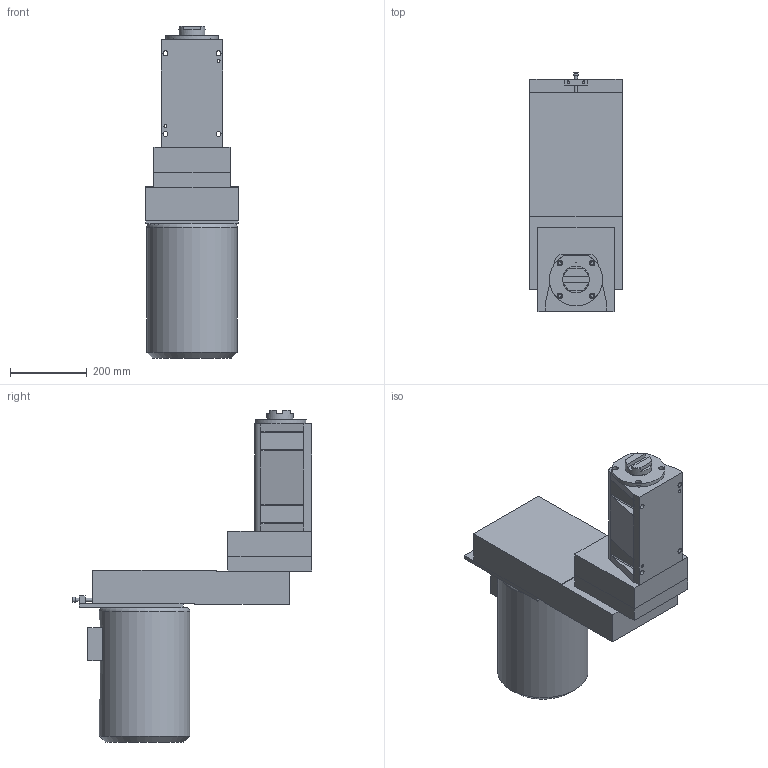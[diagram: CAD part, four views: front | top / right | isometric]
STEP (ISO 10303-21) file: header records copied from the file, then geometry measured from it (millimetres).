
FILE_DESCRIPTION((''),'2;1');
FILE_NAME('C:\VaultWork\Zeichnungen\Maßblätter\Maßblatt BF4G\BF4G Übersetzung 1 zu 3,75 ins langsame\B3676-2-1 Maßblatt BF4G Übersetzung 1 zu 3,75 ins langsame.stp','2010-07-12T09:43:04',('Test'),(''),'Autodesk Inventor 2008','Autodesk Inventor 2008','');
FILE_SCHEMA(('AUTOMOTIVE_DESIGN { 1 0 10303 214 1 1 1 1 }'));
Length unit declared in the file: millimetre
Products named in the file (1): B3676-2-1 Maßblatt BF4G Übersetzung 1 zu 3,75 ins langsame
Bounding box: 240 x 622.77 x 864 mm (x, y, z)
Volume: 36642118.1 mm3; surface area: 990918.6 mm2
Topology: 2 solids, 2 shells, 163 faces, 385 edges, 245 vertices
Faces by surface type: plane 95, bspline 33, cylinder 25, cone 8, torus 2
Full cylindrical faces by diameter (mm): 8 x2, 13 x1, 69 x1, 69.3 x1, 235 x1
Entity records: 4933 total; most frequent: CARTESIAN_POINT 1224, DIRECTION 704, ORIENTED_EDGE 674, EDGE_CURVE 337, AXIS2_PLACEMENT_3D 250, VERTEX_POINT 233, EDGE_LOOP 232, VECTOR 204
